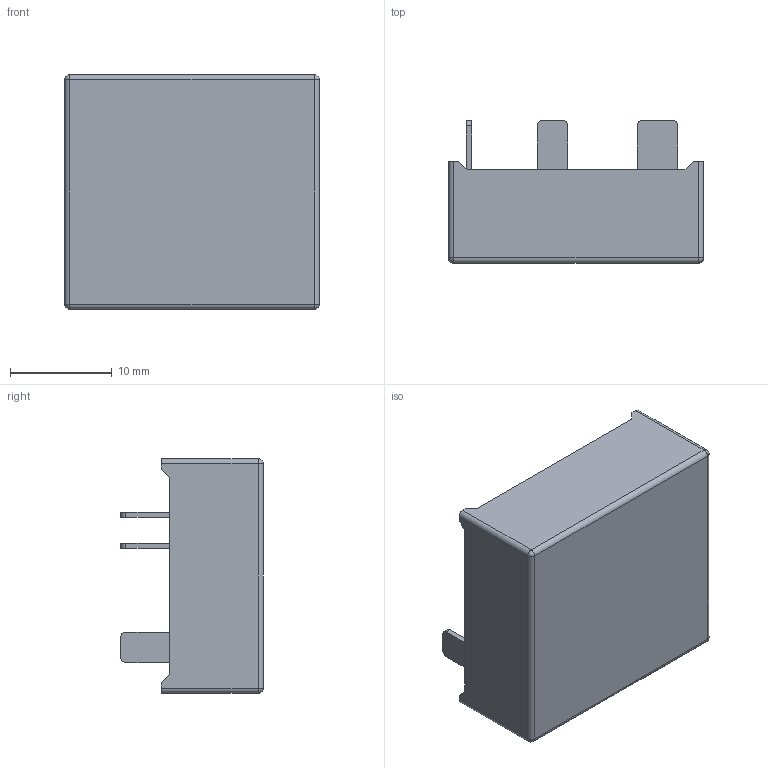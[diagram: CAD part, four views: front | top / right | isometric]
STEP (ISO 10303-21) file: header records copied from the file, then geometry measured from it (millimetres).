
FILE_DESCRIPTION((''),'2;1');
FILE_NAME('TTVS15K66-3-001','2020-06-23T',('set'),(''),'PRO/ENGINEER BY PARAMETRIC TECHNOLOGY CORPORATION, 2012310','PRO/ENGINEER BY PARAMETRIC TECHNOLOGY CORPORATION, 2012310','');
FILE_SCHEMA(('CONFIG_CONTROL_DESIGN','SHAPE_APPEARANCE_LAYERS_GROUPS'));
Length unit declared in the file: millimetre
Products named in the file (1): TTVS15K66-3-001
Bounding box: 25 x 14 x 23 mm (x, y, z)
Volume: 1853 mm3; surface area: 3761.5 mm2
Topology: 1 solids, 4 shells, 153 faces, 378 edges, 224 vertices
Faces by surface type: plane 77, cylinder 48, sphere 28
Entity records: 5482 total; most frequent: CARTESIAN_POINT 788, DIRECTION 772, ORIENTED_EDGE 708, PRESENTATION_STYLE_ASSIGNMENT 355, STYLED_ITEM 355, CURVE_STYLE 354, EDGE_CURVE 354, AXIS2_PLACEMENT_3D 269
